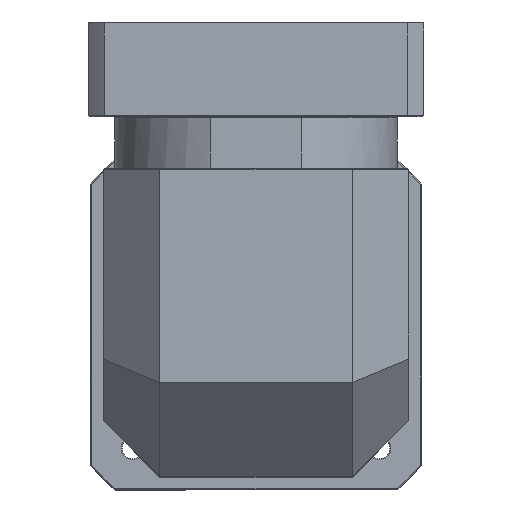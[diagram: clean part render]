
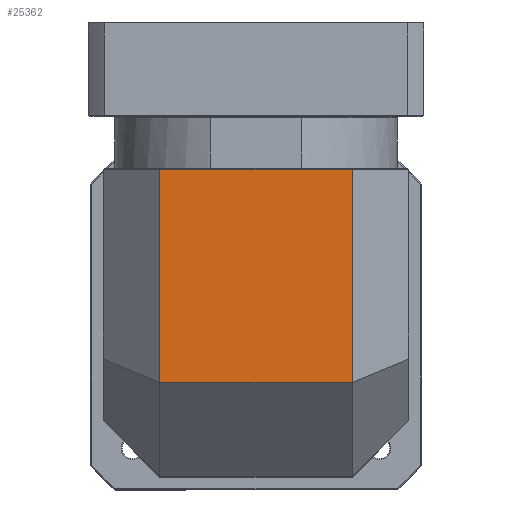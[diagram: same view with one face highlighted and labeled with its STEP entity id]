
A CAD part, top view. The second image highlights one B-rep face of the part: STEP entity #25362.
In plain terms, the highlighted planar face has unit normal (0, 0, 1).
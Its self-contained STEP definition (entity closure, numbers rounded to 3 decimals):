
#390 = DIRECTION ( 'NONE',  ( 1., 0., 0. ) ) ;
#2242 = ORIENTED_EDGE ( 'NONE', *, *, #90166, .T. ) ;
#5515 = CARTESIAN_POINT ( 'NONE',  ( -29.721, 92.225, 109.959 ) ) ;
#6750 = CARTESIAN_POINT ( 'NONE',  ( -161.721, 205.725, 109.959 ) ) ;
#18308 = EDGE_LOOP ( 'NONE', ( #124777, #110528, #87032, #2242 ) ) ;
#21732 = CARTESIAN_POINT ( 'NONE',  ( -131.721, 92.225, 109.959 ) ) ;
#25362 = ADVANCED_FACE ( 'NONE', ( #123535 ), #83165, .F. ) ;
#30749 = DIRECTION ( 'NONE',  ( 0., 1., 0. ) ) ;
#32954 = EDGE_CURVE ( 'NONE', #41275, #111928, #46869, .T. ) ;
#39744 = EDGE_CURVE ( 'NONE', #116106, #111928, #42303, .T. ) ;
#41275 = VERTEX_POINT ( 'NONE', #21732 ) ;
#42303 = LINE ( 'NONE', #97402, #108507 ) ;
#46869 = LINE ( 'NONE', #89658, #102297 ) ;
#56050 = VERTEX_POINT ( 'NONE', #5515 ) ;
#62007 = EDGE_CURVE ( 'NONE', #56050, #116106, #85294, .T. ) ;
#68949 = CARTESIAN_POINT ( 'NONE',  ( -29.721, 205.225, 109.959 ) ) ;
#75352 = DIRECTION ( 'NONE',  ( 0., 0., -1. ) ) ;
#83165 = PLANE ( 'NONE',  #101611 ) ;
#85294 = LINE ( 'NONE', #99613, #122084 ) ;
#87032 = ORIENTED_EDGE ( 'NONE', *, *, #32954, .F. ) ;
#89658 = CARTESIAN_POINT ( 'NONE',  ( -131.721, 123.975, 109.959 ) ) ;
#90166 = EDGE_CURVE ( 'NONE', #41275, #56050, #124550, .T. ) ;
#96633 = CARTESIAN_POINT ( 'NONE',  ( -161.721, 92.225, 109.959 ) ) ;
#97402 = CARTESIAN_POINT ( 'NONE',  ( -161.721, 205.225, 109.959 ) ) ;
#99613 = CARTESIAN_POINT ( 'NONE',  ( -29.721, 205.725, 109.959 ) ) ;
#101611 = AXIS2_PLACEMENT_3D ( 'NONE', #6750, #75352, #115916 ) ;
#102297 = VECTOR ( 'NONE', #109512, 1000. ) ;
#103840 = CARTESIAN_POINT ( 'NONE',  ( -131.721, 205.225, 109.959 ) ) ;
#104517 = VECTOR ( 'NONE', #390, 1000. ) ;
#108507 = VECTOR ( 'NONE', #126719, 1000. ) ;
#109512 = DIRECTION ( 'NONE',  ( 0., 1., 0. ) ) ;
#110528 = ORIENTED_EDGE ( 'NONE', *, *, #39744, .T. ) ;
#111928 = VERTEX_POINT ( 'NONE', #103840 ) ;
#115916 = DIRECTION ( 'NONE',  ( 1., 0., 0. ) ) ;
#116106 = VERTEX_POINT ( 'NONE', #68949 ) ;
#122084 = VECTOR ( 'NONE', #30749, 1000. ) ;
#123535 = FACE_OUTER_BOUND ( 'NONE', #18308, .T. ) ;
#124550 = LINE ( 'NONE', #96633, #104517 ) ;
#124777 = ORIENTED_EDGE ( 'NONE', *, *, #62007, .T. ) ;
#126719 = DIRECTION ( 'NONE',  ( -1., 0., 0. ) ) ;
